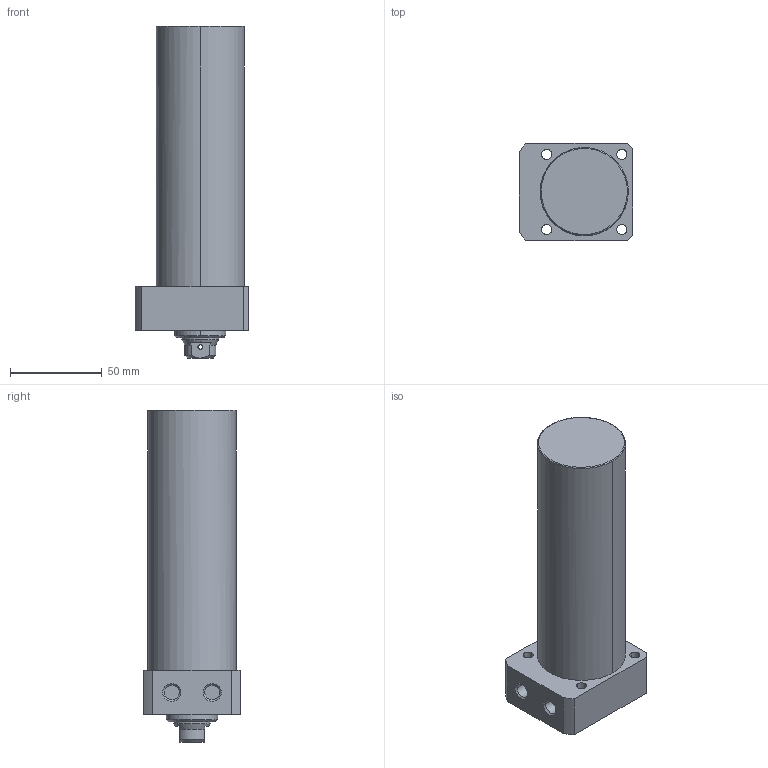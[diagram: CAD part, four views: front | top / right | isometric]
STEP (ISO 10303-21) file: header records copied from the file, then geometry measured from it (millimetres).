
FILE_DESCRIPTION((' '),'2;1');
FILE_NAME( 'TLLR-048CB-115.STEP.stp', '2025-10-24T16:34:34', (' '), ('--- Datakit www.datakit.com---'), ' Datakit CrossCadWare V2024.1 Dec 21 2023', 'Mastercam 2025', ' ');
FILE_SCHEMA(('AUTOMOTIVE_DESIGN { 1 0 10303 214 1 1 1 1 }'));
Length unit declared in the file: millimetre
Products named in the file (1): TLLR-048CB-115
Bounding box: 62 x 53 x 181 mm (x, y, z)
Volume: 335271.3 mm3; surface area: 36815.1 mm2
Topology: 1 solids, 1 shells, 67 faces, 197 edges, 136 vertices
Faces by surface type: cylinder 32, plane 19, cone 14, torus 2
Entity records: 3066 total; most frequent: CARTESIAN_POINT 1147, DIRECTION 426, ORIENTED_EDGE 390, EDGE_CURVE 195, AXIS2_PLACEMENT_3D 179, VERTEX_POINT 136, CIRCLE 111, EDGE_LOOP 85
